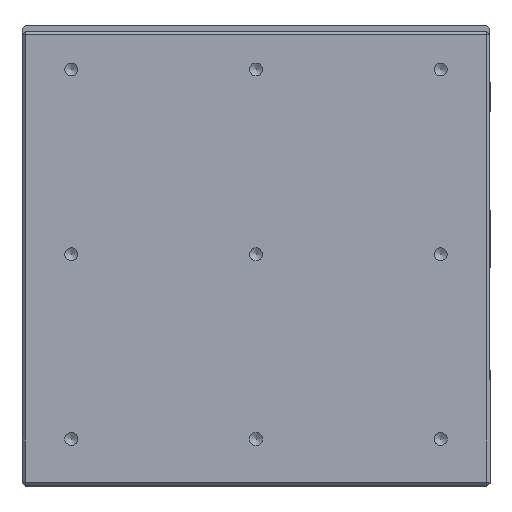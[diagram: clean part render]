
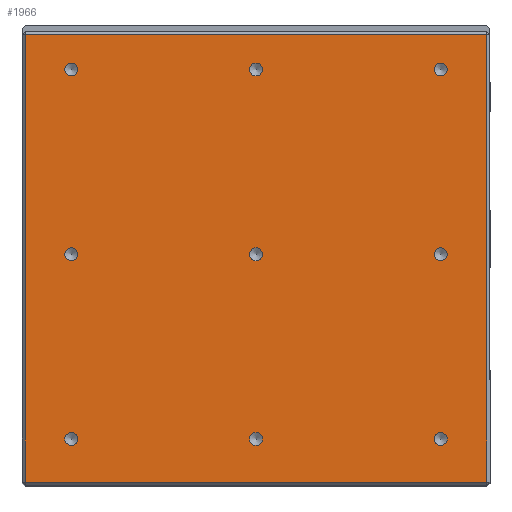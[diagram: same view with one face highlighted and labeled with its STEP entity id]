
A CAD part, top view. The second image highlights one B-rep face of the part: STEP entity #1966.
In plain terms, the highlighted planar face has unit normal (0, 0, 1).
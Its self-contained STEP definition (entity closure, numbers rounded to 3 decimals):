
#183 = CARTESIAN_POINT ( 'NONE',  ( 0., -1.25, 6. ) ) ;
#220 = ORIENTED_EDGE ( 'NONE', *, *, #2026, .F. ) ;
#266 = LINE ( 'NONE', #2157, #10322 ) ;
#406 = VERTEX_POINT ( 'NONE', #12515 ) ;
#1076 = EDGE_CURVE ( 'NONE', #11281, #11281, #17335, .T. ) ;
#1151 = AXIS2_PLACEMENT_3D ( 'NONE', #16850, #15247, #20358 ) ;
#1221 = VERTEX_POINT ( 'NONE', #11900 ) ;
#1661 = ORIENTED_EDGE ( 'NONE', *, *, #13223, .F. ) ;
#1764 = CIRCLE ( 'NONE', #14159, 2.1 ) ;
#1834 = CARTESIAN_POINT ( 'NONE',  ( -75., -76.25, 6. ) ) ;
#1966 = ADVANCED_FACE ( 'NONE', ( #7437, #5119, #17264, #12607, #7948, #10277, #8991, #20653, #5885, #7687 ), #13903, .F. ) ;
#2026 = EDGE_CURVE ( 'NONE', #13588, #13588, #1764, .T. ) ;
#2157 = CARTESIAN_POINT ( 'NONE',  ( -70., -75.25, 6. ) ) ;
#2195 = CARTESIAN_POINT ( 'NONE',  ( 0., -61.25, 6. ) ) ;
#2537 = AXIS2_PLACEMENT_3D ( 'NONE', #14315, #10807, #12528 ) ;
#2651 = CIRCLE ( 'NONE', #2537, 2.1 ) ;
#3574 = CARTESIAN_POINT ( 'NONE',  ( 2.1, -1.25, 6. ) ) ;
#3710 = CARTESIAN_POINT ( 'NONE',  ( -71., 70.25, 6. ) ) ;
#3779 = VERTEX_POINT ( 'NONE', #15391 ) ;
#3780 = ORIENTED_EDGE ( 'NONE', *, *, #21175, .F. ) ;
#3946 = CARTESIAN_POINT ( 'NONE',  ( -75., -75.25, 6. ) ) ;
#4025 = VERTEX_POINT ( 'NONE', #5547 ) ;
#4170 = CIRCLE ( 'NONE', #11459, 2.1 ) ;
#4235 = DIRECTION ( 'NONE',  ( 1., 0., 0. ) ) ;
#4237 = EDGE_LOOP ( 'NONE', ( #19720 ) ) ;
#4321 = DIRECTION ( 'NONE',  ( 1., 0., 0. ) ) ;
#4674 = EDGE_CURVE ( 'NONE', #19829, #19829, #19489, .T. ) ;
#4765 = DIRECTION ( 'NONE',  ( 0., 0., 1. ) ) ;
#4857 = CARTESIAN_POINT ( 'NONE',  ( -60., -1.25, 6. ) ) ;
#5010 = CARTESIAN_POINT ( 'NONE',  ( 62.1, -61.25, 6. ) ) ;
#5119 = FACE_BOUND ( 'NONE', #4237, .T. ) ;
#5224 = ORIENTED_EDGE ( 'NONE', *, *, #12618, .F. ) ;
#5264 = VERTEX_POINT ( 'NONE', #3946 ) ;
#5489 = DIRECTION ( 'NONE',  ( 0., 0., 1. ) ) ;
#5547 = CARTESIAN_POINT ( 'NONE',  ( -75., 70.25, 6. ) ) ;
#5615 = EDGE_CURVE ( 'NONE', #19317, #19317, #4170, .T. ) ;
#5729 = EDGE_CURVE ( 'NONE', #20770, #4025, #9601, .T. ) ;
#5885 = FACE_BOUND ( 'NONE', #11234, .T. ) ;
#6021 = EDGE_CURVE ( 'NONE', #1221, #1221, #15503, .T. ) ;
#6308 = AXIS2_PLACEMENT_3D ( 'NONE', #183, #11969, #11742 ) ;
#6568 = EDGE_CURVE ( 'NONE', #5264, #7754, #266, .T. ) ;
#6661 = CARTESIAN_POINT ( 'NONE',  ( 2.1, -61.25, 6. ) ) ;
#6739 = CARTESIAN_POINT ( 'NONE',  ( 2.1, 58.75, 6. ) ) ;
#7268 = EDGE_CURVE ( 'NONE', #13836, #13836, #18285, .T. ) ;
#7312 = LINE ( 'NONE', #18147, #18679 ) ;
#7405 = ORIENTED_EDGE ( 'NONE', *, *, #7268, .F. ) ;
#7437 = FACE_BOUND ( 'NONE', #11421, .T. ) ;
#7673 = DIRECTION ( 'NONE',  ( 0., 0., 1. ) ) ;
#7687 = FACE_OUTER_BOUND ( 'NONE', #16890, .T. ) ;
#7754 = VERTEX_POINT ( 'NONE', #15853 ) ;
#7890 = DIRECTION ( 'NONE',  ( 1., 0., 0. ) ) ;
#7948 = FACE_BOUND ( 'NONE', #16431, .T. ) ;
#8089 = ORIENTED_EDGE ( 'NONE', *, *, #5615, .F. ) ;
#8546 = EDGE_LOOP ( 'NONE', ( #10163 ) ) ;
#8915 = DIRECTION ( 'NONE',  ( 1., 0., 0. ) ) ;
#8991 = FACE_BOUND ( 'NONE', #8546, .T. ) ;
#9445 = ORIENTED_EDGE ( 'NONE', *, *, #6021, .F. ) ;
#9601 = LINE ( 'NONE', #3710, #18381 ) ;
#9662 = EDGE_CURVE ( 'NONE', #18230, #18230, #2651, .T. ) ;
#9801 = AXIS2_PLACEMENT_3D ( 'NONE', #12916, #4765, #19590 ) ;
#9980 = DIRECTION ( 'NONE',  ( 0., -1., 0. ) ) ;
#10163 = ORIENTED_EDGE ( 'NONE', *, *, #1076, .F. ) ;
#10277 = FACE_BOUND ( 'NONE', #13457, .T. ) ;
#10322 = VECTOR ( 'NONE', #8915, 1000. ) ;
#10741 = DIRECTION ( 'NONE',  ( 0., 0., 1. ) ) ;
#10807 = DIRECTION ( 'NONE',  ( 0., 0., 1. ) ) ;
#10894 = ORIENTED_EDGE ( 'NONE', *, *, #4674, .F. ) ;
#11234 = EDGE_LOOP ( 'NONE', ( #220 ) ) ;
#11281 = VERTEX_POINT ( 'NONE', #5010 ) ;
#11421 = EDGE_LOOP ( 'NONE', ( #5224 ) ) ;
#11459 = AXIS2_PLACEMENT_3D ( 'NONE', #4857, #19828, #11517 ) ;
#11517 = DIRECTION ( 'NONE',  ( 1., 0., 0. ) ) ;
#11583 = CIRCLE ( 'NONE', #17913, 2.1 ) ;
#11654 = EDGE_LOOP ( 'NONE', ( #3780 ) ) ;
#11742 = DIRECTION ( 'NONE',  ( 1., 0., 0. ) ) ;
#11900 = CARTESIAN_POINT ( 'NONE',  ( -57.9, 58.75, 6. ) ) ;
#11919 = AXIS2_PLACEMENT_3D ( 'NONE', #17924, #15967, #7890 ) ;
#11969 = DIRECTION ( 'NONE',  ( 0., 0., 1. ) ) ;
#12097 = DIRECTION ( 'NONE',  ( 0., -1., 0. ) ) ;
#12394 = DIRECTION ( 'NONE',  ( 0., 0., -1. ) ) ;
#12515 = CARTESIAN_POINT ( 'NONE',  ( 62.1, -1.25, 6. ) ) ;
#12528 = DIRECTION ( 'NONE',  ( 1., 0., 0. ) ) ;
#12605 = CARTESIAN_POINT ( 'NONE',  ( -71., 71.25, 6. ) ) ;
#12607 = FACE_BOUND ( 'NONE', #11654, .T. ) ;
#12618 = EDGE_CURVE ( 'NONE', #3779, #3779, #11583, .T. ) ;
#12757 = CARTESIAN_POINT ( 'NONE',  ( 75., 70.25, 6. ) ) ;
#12916 = CARTESIAN_POINT ( 'NONE',  ( -60., 58.75, 6. ) ) ;
#13223 = EDGE_CURVE ( 'NONE', #20770, #7754, #7312, .T. ) ;
#13370 = ORIENTED_EDGE ( 'NONE', *, *, #5729, .T. ) ;
#13457 = EDGE_LOOP ( 'NONE', ( #8089 ) ) ;
#13588 = VERTEX_POINT ( 'NONE', #17873 ) ;
#13658 = DIRECTION ( 'NONE',  ( -1., 0., 0. ) ) ;
#13691 = AXIS2_PLACEMENT_3D ( 'NONE', #2195, #5489, #17041 ) ;
#13836 = VERTEX_POINT ( 'NONE', #6661 ) ;
#13903 = PLANE ( 'NONE',  #17491 ) ;
#14159 = AXIS2_PLACEMENT_3D ( 'NONE', #14255, #10741, #4321 ) ;
#14255 = CARTESIAN_POINT ( 'NONE',  ( -60., -61.25, 6. ) ) ;
#14299 = VECTOR ( 'NONE', #9980, 1000. ) ;
#14315 = CARTESIAN_POINT ( 'NONE',  ( 0., 58.75, 6. ) ) ;
#15247 = DIRECTION ( 'NONE',  ( 0., 0., 1. ) ) ;
#15391 = CARTESIAN_POINT ( 'NONE',  ( 62.1, 58.75, 6. ) ) ;
#15503 = CIRCLE ( 'NONE', #9801, 2.1 ) ;
#15853 = CARTESIAN_POINT ( 'NONE',  ( 75., -75.25, 6. ) ) ;
#15895 = CARTESIAN_POINT ( 'NONE',  ( 60., 58.75, 6. ) ) ;
#15967 = DIRECTION ( 'NONE',  ( 0., 0., 1. ) ) ;
#16431 = EDGE_LOOP ( 'NONE', ( #10894 ) ) ;
#16850 = CARTESIAN_POINT ( 'NONE',  ( 60., -61.25, 6. ) ) ;
#16890 = EDGE_LOOP ( 'NONE', ( #1661, #13370, #17141, #20400 ) ) ;
#17041 = DIRECTION ( 'NONE',  ( 1., 0., 0. ) ) ;
#17141 = ORIENTED_EDGE ( 'NONE', *, *, #18190, .T. ) ;
#17264 = FACE_BOUND ( 'NONE', #19929, .T. ) ;
#17335 = CIRCLE ( 'NONE', #1151, 2.1 ) ;
#17491 = AXIS2_PLACEMENT_3D ( 'NONE', #12605, #12394, #20650 ) ;
#17873 = CARTESIAN_POINT ( 'NONE',  ( -57.9, -61.25, 6. ) ) ;
#17913 = AXIS2_PLACEMENT_3D ( 'NONE', #15895, #7673, #4235 ) ;
#17924 = CARTESIAN_POINT ( 'NONE',  ( 60., -1.25, 6. ) ) ;
#18147 = CARTESIAN_POINT ( 'NONE',  ( 75., -76.25, 6. ) ) ;
#18190 = EDGE_CURVE ( 'NONE', #4025, #5264, #19247, .T. ) ;
#18230 = VERTEX_POINT ( 'NONE', #6739 ) ;
#18285 = CIRCLE ( 'NONE', #13691, 2.1 ) ;
#18381 = VECTOR ( 'NONE', #13658, 1000. ) ;
#18679 = VECTOR ( 'NONE', #12097, 1000. ) ;
#18797 = CIRCLE ( 'NONE', #11919, 2.1 ) ;
#19247 = LINE ( 'NONE', #1834, #14299 ) ;
#19276 = EDGE_LOOP ( 'NONE', ( #7405 ) ) ;
#19317 = VERTEX_POINT ( 'NONE', #20062 ) ;
#19489 = CIRCLE ( 'NONE', #6308, 2.1 ) ;
#19590 = DIRECTION ( 'NONE',  ( 1., 0., 0. ) ) ;
#19720 = ORIENTED_EDGE ( 'NONE', *, *, #9662, .F. ) ;
#19828 = DIRECTION ( 'NONE',  ( 0., 0., 1. ) ) ;
#19829 = VERTEX_POINT ( 'NONE', #3574 ) ;
#19929 = EDGE_LOOP ( 'NONE', ( #9445 ) ) ;
#20062 = CARTESIAN_POINT ( 'NONE',  ( -57.9, -1.25, 6. ) ) ;
#20358 = DIRECTION ( 'NONE',  ( 1., 0., 0. ) ) ;
#20400 = ORIENTED_EDGE ( 'NONE', *, *, #6568, .T. ) ;
#20650 = DIRECTION ( 'NONE',  ( -1., 0., 0. ) ) ;
#20653 = FACE_BOUND ( 'NONE', #19276, .T. ) ;
#20770 = VERTEX_POINT ( 'NONE', #12757 ) ;
#21175 = EDGE_CURVE ( 'NONE', #406, #406, #18797, .T. ) ;
